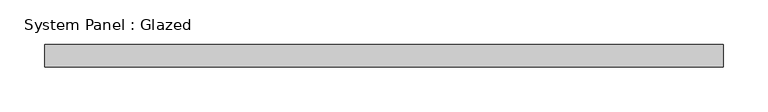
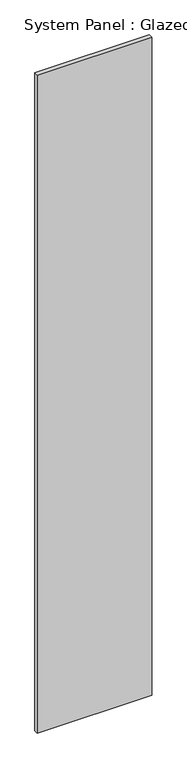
"""IFC4 building model written with IfcOpenShell, lengths in millimetres: plate geometry, System Panel : Glazed."""

from ifc_helpers import new_model, si_unit, origin, origin_with_axes, place, context, project, spatial, polyline, outline, extrude, source, transform, mapped, element, save


def system_panel_glazed_7dca4fa5(model_context):
    return source(origin(), model_context, "Body", "SweptSolid", [
        extrude(outline(polyline([(381.0, 19.05), (-381.0, 19.05), (-381.0, 44.45), (381.0, 44.45), (381.0, 19.05)])), origin_with_axes(), (0.0, 0.0, 1.0), 4629.15),
    ])


if __name__ == "__main__":
    model = new_model("IFC4")
    model_context = context("Model", 3, world=origin())
    ifc_project = project(units=[si_unit("LENGTHUNIT", "METRE", prefix="MILLI")], contexts=[model_context])
    site = spatial("IfcSite", under=ifc_project)
    building = spatial("IfcBuilding", under=site)
    placement = place(None, origin())
    system_panel_glazed_shape = system_panel_glazed_7dca4fa5(model_context)
    element("IfcPlate", 1, ObjectType="System Panel : Glazed", at=placement, inside=building, context=model_context, shape_type="MappedRepresentation", body=[
        mapped(system_panel_glazed_shape, transform((0.0, 0.0, 0.0), x_axis=(1.0, 0.0, 0.0), y_axis=(0.0, 1.0, 0.0), z_axis=(0.0, 0.0, 1.0))),
    ])
    save(model, "model.ifc")
